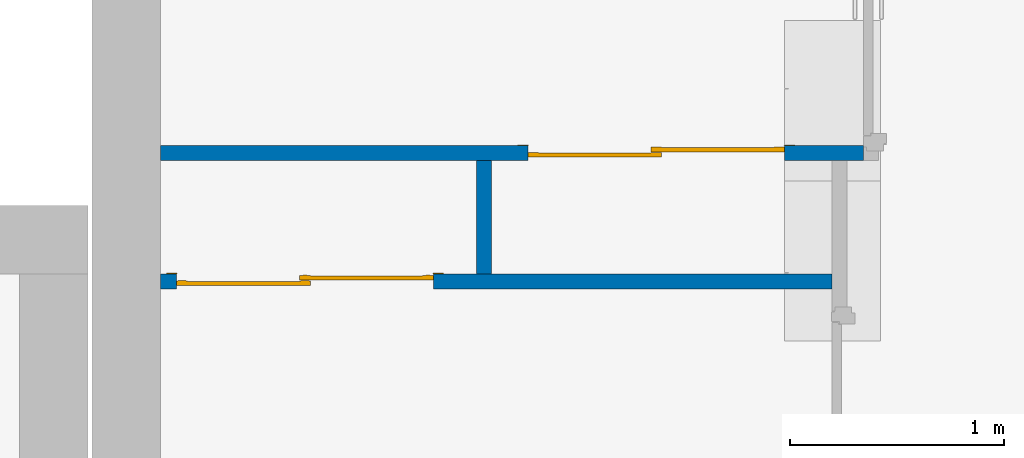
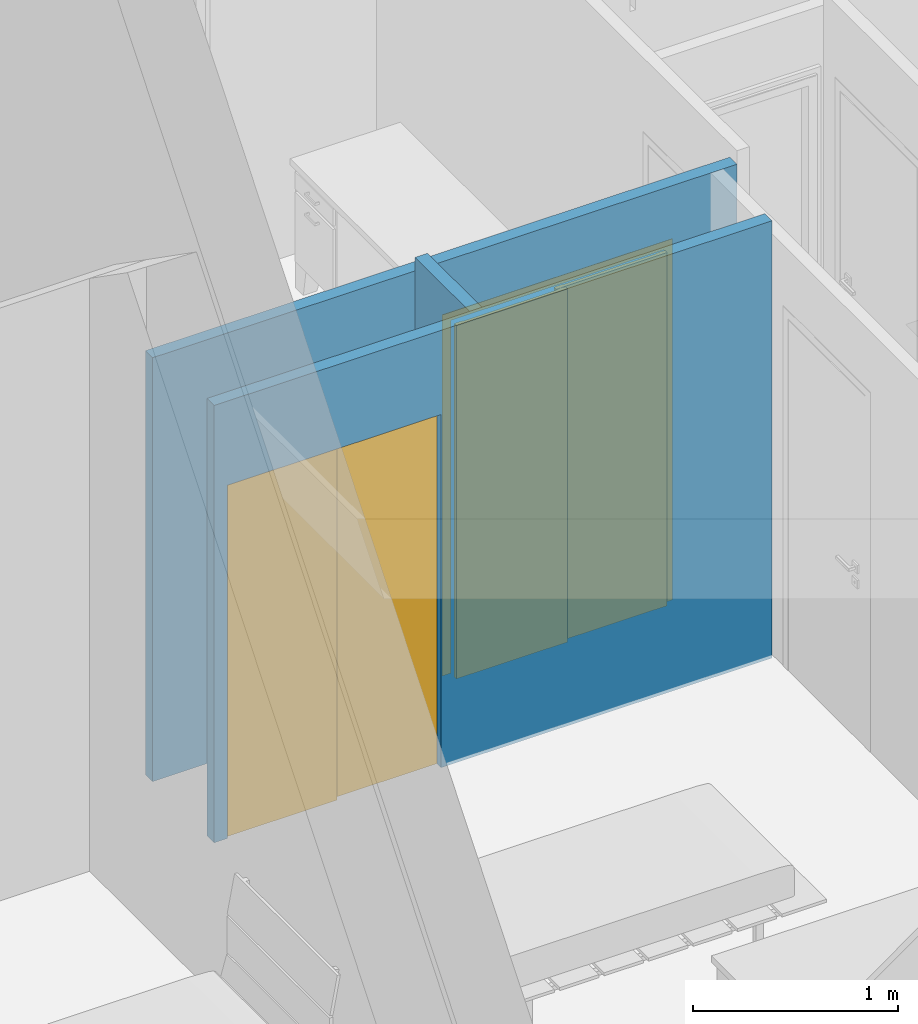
# One storey, part 31 of 61: 3 walls, 2 doors, 2 openings.
"""IFC2X3 building model written with IfcOpenShell, lengths in metres."""

from ifc_helpers import new_model, entity, si_unit, converted_unit, derived_unit, direction, frame, frame_2d, origin, origin_2d_with_axis, place, context, subcontext, project, spatial, polyline, circle_curve, parameter, trimmed, segment, composite_curve, rectangle, outline, extrude, source, transform, mapped, material, material_list, layer, layer_set, layer_usage, type_object, type_shapes, element, fill, save


model = new_model("IFC2X3")

# Units and contexts
model_context = context("Model", 3, precision=1e-05, world=origin(), true_north=direction((6.12303176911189e-17, 1.0)))
body_context = subcontext(model_context, "Body", "Model", "MODEL_VIEW")
ifc_project = project(units=[si_unit("LENGTHUNIT", "METRE"), si_unit("AREAUNIT", "SQUARE_METRE"), si_unit("VOLUMEUNIT", "CUBIC_METRE"), converted_unit("PLANEANGLEUNIT", "DEGREE", entity("IfcRatioMeasure", 0.0174532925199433), si_unit("PLANEANGLEUNIT", "RADIAN"), dimensions=[0, 0, 0, 0, 0, 0, 0]), si_unit("MASSUNIT", "GRAM", prefix="KILO"), derived_unit("MASSDENSITYUNIT", [(si_unit("MASSUNIT", "GRAM", prefix="KILO"), 1), (si_unit("LENGTHUNIT", "METRE"), -3)]), si_unit("TIMEUNIT", "SECOND"), si_unit("FREQUENCYUNIT", "HERTZ"), si_unit("THERMODYNAMICTEMPERATUREUNIT", "DEGREE_CELSIUS"), derived_unit("THERMALTRANSMITTANCEUNIT", [(si_unit("MASSUNIT", "GRAM", prefix="KILO"), 1), (si_unit("THERMODYNAMICTEMPERATUREUNIT", "KELVIN"), -1), (si_unit("TIMEUNIT", "SECOND"), -3)]), derived_unit("VOLUMETRICFLOWRATEUNIT", [(si_unit("LENGTHUNIT", "METRE"), 3), (si_unit("TIMEUNIT", "SECOND"), -1)]), si_unit("ELECTRICCURRENTUNIT", "AMPERE"), si_unit("ELECTRICVOLTAGEUNIT", "VOLT"), si_unit("POWERUNIT", "WATT"), si_unit("FORCEUNIT", "NEWTON", prefix="KILO"), si_unit("ILLUMINANCEUNIT", "LUX"), si_unit("LUMINOUSFLUXUNIT", "LUMEN"), si_unit("LUMINOUSINTENSITYUNIT", "CANDELA"), derived_unit("USERDEFINED", [(si_unit("MASSUNIT", "GRAM", prefix="KILO"), -1), (si_unit("LENGTHUNIT", "METRE"), -2), (si_unit("TIMEUNIT", "SECOND"), 3), (si_unit("LUMINOUSFLUXUNIT", "LUMEN"), 1)]), derived_unit("LINEARVELOCITYUNIT", [(si_unit("LENGTHUNIT", "METRE"), 1), (si_unit("TIMEUNIT", "SECOND"), -1)]), si_unit("PRESSUREUNIT", "PASCAL"), derived_unit("USERDEFINED", [(si_unit("LENGTHUNIT", "METRE"), -2), (si_unit("MASSUNIT", "GRAM", prefix="KILO"), 1), (si_unit("TIMEUNIT", "SECOND"), -2)])], contexts=[model_context])

# Site, building, storey
site_placement = place(None, origin())
site = spatial("IfcSite", under=ifc_project, at=site_placement, Name="Surface", CompositionType="ELEMENT")
building_placement = place(site_placement, origin())
building = spatial("IfcBuilding", under=site, at=building_placement, CompositionType="ELEMENT")
storey_placement = place(building_placement, frame((0.0, 0.0, 2.82)))
storey = spatial("IfcBuildingStorey", under=building, at=storey_placement, Name="ETAGE", CompositionType="ELEMENT", Elevation=2.82)

# Wall, opening, door
ifc_material_1 = material(Name="Peinture - Blanc")
ifc_layer = layer(ifc_material_1, 0.07)
ifc_layer_set = layer_set([ifc_layer], Name="Mur de base:Int.  Platre 70 mm en blanc")
ifc_layer_usage_1 = layer_usage(ifc_layer_set, "AXIS2", "POSITIVE", -0.035)
wall_type = type_object("IfcWallType", Name="Mur de base:Int.  Platre 70 mm en blanc", PredefinedType="STANDARD", material=ifc_layer_set)
wall_1_placement = place(storey_placement, frame((79.9089023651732, 88.6725239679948, 0.0), z_axis=(0.0, 0.0, 1.0), x_axis=(-1.0, 0.0, 0.0)))
wall_1 = element("IfcWallStandardCase", 1, at=wall_1_placement, inside=storey, type_object=wall_type, material=ifc_layer_usage_1, Name="Mur de base:Int.  Platre 70 mm en blanc", ObjectType="Mur de base:Int.  Platre 70 mm en blanc", context=body_context, shape_type="SweptSolid", body=[
    extrude(rectangle(XDim=3.28614635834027, YDim=0.0699999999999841, at=frame_2d((1.64307317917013, -2.15105711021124e-16), x_axis=(-1.0, 0.0))), origin(), (0.0, 0.0, 1.0), 2.52),
])
opening_1_placement = place(wall_1_placement, frame((1.56869914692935, 0.0350000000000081, 0.0)))
opening_1 = element("IfcOpeningElement", 2, at=opening_1_placement, cuts=wall_1, Name="Placard coulissante - 2 panneaux:Placard coulissante - 2 panneaux:1", ObjectType="Opening", context=body_context, shape_type="SweptSolid", body=[
    extrude(rectangle(XDim=2.09999999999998, YDim=1.2, at=frame_2d((1.04999999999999, 0.6), x_axis=(1.0, 0.0))), frame((0.0, 0.0, 0.0), z_axis=(0.0, -1.0, 0.0), x_axis=(0.0, 0.0, 1.0)), (0.0, 0.0, 1.0), 0.07),
])
ifc_material_2 = material(Name="Placard - Profil")
ifc_material_3 = material(Name="Placard - Encadrement")
ifc_material_4 = material(Name="Placard - Porte")
ifc_material_list_1 = material_list([ifc_material_2, ifc_material_3, ifc_material_4])
ifc_material_list_2 = material_list([ifc_material_2, ifc_material_3, ifc_material_4])
door_style = type_object("IfcDoorStyle", Name="Placard coulissante - 2 panneaux", ConstructionType="NOTDEFINED", OperationType="NOTDEFINED", ParameterTakesPrecedence=False, Sizeable=False, material=ifc_material_list_2)
shared_shape = source(origin(), body_context, "Body", "SweptSolid", [
    extrude(outline(composite_curve([segment(polyline([(-0.00100000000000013, -0.0249999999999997), (0.00100000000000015, -0.0249999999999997)]), True, "CONTINUOUS"), segment(trimmed(circle_curve(frame_2d((-0.212860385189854, 0.0), x_axis=(0.0, -1.0)), 0.215316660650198), [parameter(83.3324595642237)], [parameter(96.6675404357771)], True, "PARAMETER"), True, "CONTINUOUS"), segment(polyline([(0.00100000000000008, 0.0249999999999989), (-0.00100000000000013, 0.0250000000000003)]), True, "CONTINUOUS"), segment(polyline([(-0.00100000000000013, 0.0250000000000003), (-0.00100000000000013, -0.0249999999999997)]), True, "CONTINUOUS")], self_intersect=False)), frame((0.0250000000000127, 0.00900000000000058, 0.0), z_axis=(0.0, 0.0, 1.0), x_axis=(0.0, -1.0, 0.0)), (0.0, 0.0, 1.0), 2.1),
    extrude(outline(composite_curve([segment(polyline([(-0.00100000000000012, -0.0249999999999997), (0.00100000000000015, -0.0249999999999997)]), True, "CONTINUOUS"), segment(trimmed(circle_curve(frame_2d((-0.212860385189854, 0.0), x_axis=(0.0, -1.0)), 0.215316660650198), [parameter(83.3324595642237)], [parameter(96.6675404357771)], True, "PARAMETER"), True, "CONTINUOUS"), segment(polyline([(0.00100000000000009, 0.0249999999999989), (-0.00100000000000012, 0.0250000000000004)]), True, "CONTINUOUS"), segment(polyline([(-0.00100000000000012, 0.0250000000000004), (-0.00100000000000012, -0.0249999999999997)]), True, "CONTINUOUS")], self_intersect=False)), frame((0.600000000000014, 0.00900000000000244, 0.0), z_axis=(0.0, 0.0, 1.0), x_axis=(0.0, -1.0, 0.0)), (0.0, 0.0, 1.0), 2.1),
    extrude(outline(composite_curve([segment(polyline([(-0.00100000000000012, -0.0249999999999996), (0.00100000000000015, -0.0249999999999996)]), True, "CONTINUOUS"), segment(trimmed(circle_curve(frame_2d((-0.212860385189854, 0.0), x_axis=(0.0, -1.0)), 0.215316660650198), [parameter(83.3324595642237)], [parameter(96.6675404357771)], True, "PARAMETER"), True, "CONTINUOUS"), segment(polyline([(0.00100000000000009, 0.0249999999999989), (-0.00100000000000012, 0.0250000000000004)]), True, "CONTINUOUS"), segment(polyline([(-0.00100000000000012, 0.0250000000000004), (-0.00100000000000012, -0.0249999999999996)]), True, "CONTINUOUS")], self_intersect=False)), frame((0.600000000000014, 0.0340000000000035, 0.0), z_axis=(0.0, 0.0, 1.0), x_axis=(0.0, -1.0, 0.0)), (0.0, 0.0, 1.0), 2.1),
    extrude(outline(composite_curve([segment(polyline([(-0.00100000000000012, -0.0249999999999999), (0.00100000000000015, -0.0249999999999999)]), True, "CONTINUOUS"), segment(trimmed(circle_curve(frame_2d((-0.212860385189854, 0.0), x_axis=(0.0, -1.0)), 0.215316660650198), [parameter(83.3324595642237)], [parameter(96.6675404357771)], True, "PARAMETER"), True, "CONTINUOUS"), segment(polyline([(0.00100000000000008, 0.0249999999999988), (-0.00100000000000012, 0.0250000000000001)]), True, "CONTINUOUS"), segment(polyline([(-0.00100000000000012, 0.0250000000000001), (-0.00100000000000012, -0.0249999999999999)]), True, "CONTINUOUS")], self_intersect=False)), frame((1.17500000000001, 0.0340000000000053, 0.0), z_axis=(0.0, 0.0, 1.0), x_axis=(0.0, -1.0, 0.0)), (0.0, 0.0, 1.0), 2.1),
    extrude(outline(polyline([(0.597999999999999, -1.06149999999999), (0.647999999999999, -1.06149999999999), (0.647999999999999, 1.08649999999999), (-0.647999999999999, 1.08649999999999), (-0.647999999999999, -1.06149999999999), (-0.597999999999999, -1.06149999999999), (-0.597999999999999, 1.03649999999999), (0.597999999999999, 1.03649999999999), (0.597999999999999, -1.06149999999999)])), frame((0.600000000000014, 0.0, 1.06149999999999), z_axis=(0.0, -1.0, 0.0), x_axis=(1.0, 0.0, 0.0)), (0.0, 0.0, 1.0), 0.003),
    extrude(rectangle(XDim=0.625000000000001, YDim=0.020000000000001, at=origin_2d_with_axis()), frame((0.312500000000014, 0.0200000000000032, 0.0)), (0.0, 0.0, 1.0), 2.1),
    extrude(rectangle(XDim=0.624999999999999, YDim=0.02, at=origin_2d_with_axis()), frame((0.887500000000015, 0.0450000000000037, 0.0)), (0.0, 0.0, 1.0), 2.1),
])
type_shapes(door_style, [shared_shape])
door_1_placement = place(opening_1_placement, frame((-1.2, -0.0700000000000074, 0.0)))
door_1 = element("IfcDoor", 3, at=door_1_placement, inside=storey, type_object=door_style, material=ifc_material_list_1, Name="Placard coulissante - 2 panneaux:Placard coulissante - 2 panneaux", ObjectType="Placard coulissante - 2 panneaux:Placard coulissante - 2 panneaux", OverallHeight=2.09999999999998, OverallWidth=1.2, context=body_context, shape_type="MappedRepresentation", body=[
    mapped(shared_shape, transform((0.0, 0.0, 0.0), scale=1.0)),
])
fill(opening_1, door_1)

ifc_layer_usage_2 = layer_usage(ifc_layer_set, "AXIS2", "POSITIVE", -0.035)
wall_2_placement = place(storey_placement, frame((79.7610189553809, 88.0725239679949, 0.0), z_axis=(0.0, 0.0, 1.0), x_axis=(-1.0, 0.0, 0.0)))
wall_2 = element("IfcWallStandardCase", 4, at=wall_2_placement, inside=storey, type_object=wall_type, material=ifc_layer_usage_2, Name="Mur de base:Int.  Platre 70 mm en blanc", ObjectType="Mur de base:Int.  Platre 70 mm en blanc", context=body_context, shape_type="SweptSolid", body=[
    extrude(rectangle(XDim=3.13826294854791, YDim=0.0699999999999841, at=frame_2d((1.56913147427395, 8.53483950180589e-16), x_axis=(-1.0, 0.0))), origin(), (0.0, 0.0, 1.0), 2.6),
])
opening_2_placement = place(wall_2_placement, frame((3.06326294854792, 0.0350000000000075, 0.0)))
opening_2 = element("IfcOpeningElement", 5, at=opening_2_placement, cuts=wall_2, Name="Placard coulissante - 2 panneaux:Placard coulissante - 2 panneaux:1", ObjectType="Opening", context=body_context, shape_type="SweptSolid", body=[
    extrude(rectangle(XDim=2.09999999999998, YDim=1.2, at=frame_2d((1.04999999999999, 0.6), x_axis=(1.0, 0.0))), frame((0.0, 0.0, 0.0), z_axis=(0.0, -1.0, 0.0), x_axis=(0.0, 0.0, 1.0)), (0.0, 0.0, 1.0), 0.07),
])
ifc_material_list_3 = material_list([ifc_material_2, ifc_material_3, ifc_material_4])
door_2_placement = place(opening_2_placement, frame((-1.2, -0.0699999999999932, 0.0)))
door_2 = element("IfcDoor", 6, at=door_2_placement, inside=storey, type_object=door_style, material=ifc_material_list_3, Name="Placard coulissante - 2 panneaux:Placard coulissante - 2 panneaux", ObjectType="Placard coulissante - 2 panneaux:Placard coulissante - 2 panneaux", OverallHeight=2.09999999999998, OverallWidth=1.2, context=body_context, shape_type="MappedRepresentation", body=[
    mapped(shared_shape, transform((0.0, 0.0, 0.0), scale=1.0)),
])
fill(opening_2, door_2)

# Wall
ifc_layer_usage_3 = layer_usage(ifc_layer_set, "AXIS2", "POSITIVE", -0.035)
wall_3_placement = place(storey_placement, frame((78.1343874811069, 88.1075239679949, 0.0), z_axis=(0.0, 0.0, 1.0), x_axis=(0.0, 1.0, 0.0)))
element("IfcWallStandardCase", 7, at=wall_3_placement, inside=storey, type_object=wall_type, material=ifc_layer_usage_3, Name="Mur de base:Int.  Platre 70 mm en blanc", ObjectType="Mur de base:Int.  Platre 70 mm en blanc", context=body_context, shape_type="SweptSolid", body=[
    extrude(rectangle(XDim=0.529999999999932, YDim=0.0699999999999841, at=frame_2d((0.264999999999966, 0.0), x_axis=(-1.0, 0.0))), origin(), (0.0, 0.0, 1.0), 2.6),
])

save(model, "model.ifc")
